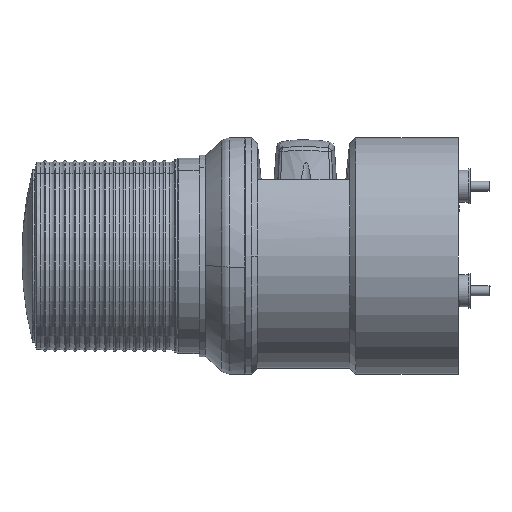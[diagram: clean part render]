
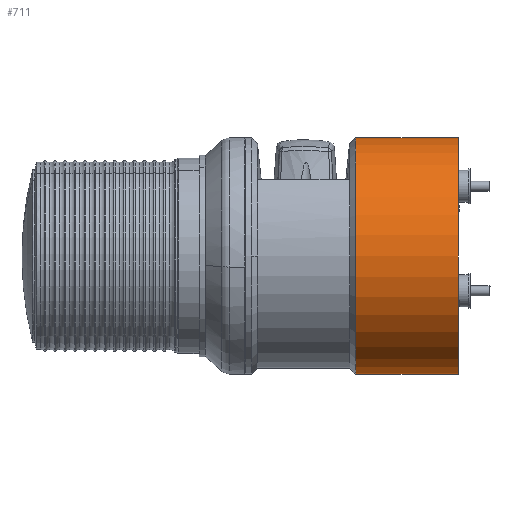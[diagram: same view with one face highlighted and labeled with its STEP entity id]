
A CAD part, left-side view. The second image highlights one B-rep face of the part: STEP entity #711.
In plain terms, the highlighted cylindrical face has radius 59.5 mm (diameter 119 mm), a partial arc.
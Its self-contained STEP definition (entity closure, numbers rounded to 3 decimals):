
#552 = VERTEX_POINT ( 'NONE', #8645 ) ;
#711 = ADVANCED_FACE ( 'NONE', ( #7985 ), #17472, .T. ) ;
#912 = AXIS2_PLACEMENT_3D ( 'NONE', #8620, #4335, #9899 ) ;
#1353 = EDGE_LOOP ( 'NONE', ( #16219, #14807, #9179, #2545 ) ) ;
#2368 = AXIS2_PLACEMENT_3D ( 'NONE', #7816, #16025, #16201 ) ;
#2545 = ORIENTED_EDGE ( 'NONE', *, *, #9783, .T. ) ;
#3145 = DIRECTION ( 'NONE',  ( 0., 1., 0. ) ) ;
#3330 = LINE ( 'NONE', #15909, #17002 ) ;
#3945 = DIRECTION ( 'NONE',  ( 0., 0., 1. ) ) ;
#4335 = DIRECTION ( 'NONE',  ( 0., 1., 0. ) ) ;
#4375 = CARTESIAN_POINT ( 'NONE',  ( -1.343, 53.283, 178.886 ) ) ;
#4472 = DIRECTION ( 'NONE',  ( 0., 1., 0. ) ) ;
#7816 = CARTESIAN_POINT ( 'NONE',  ( -1.343, 53.283, 119.386 ) ) ;
#7985 = FACE_OUTER_BOUND ( 'NONE', #1353, .T. ) ;
#8620 = CARTESIAN_POINT ( 'NONE',  ( -1.343, -5.217, 119.386 ) ) ;
#8645 = CARTESIAN_POINT ( 'NONE',  ( -1.343, -5.217, 59.886 ) ) ;
#8686 = VERTEX_POINT ( 'NONE', #14610 ) ;
#9179 = ORIENTED_EDGE ( 'NONE', *, *, #12927, .T. ) ;
#9333 = CIRCLE ( 'NONE', #11965, 59.5 ) ;
#9762 = EDGE_CURVE ( 'NONE', #552, #8686, #14873, .T. ) ;
#9783 = EDGE_CURVE ( 'NONE', #12223, #10938, #9333, .T. ) ;
#9899 = DIRECTION ( 'NONE',  ( 0., 0., 1. ) ) ;
#10938 = VERTEX_POINT ( 'NONE', #12063 ) ;
#11965 = AXIS2_PLACEMENT_3D ( 'NONE', #16439, #12334, #3945 ) ;
#12063 = CARTESIAN_POINT ( 'NONE',  ( -1.343, 46.125, 59.886 ) ) ;
#12097 = EDGE_CURVE ( 'NONE', #552, #10938, #3330, .T. ) ;
#12223 = VERTEX_POINT ( 'NONE', #16997 ) ;
#12334 = DIRECTION ( 'NONE',  ( 0., -1., 0. ) ) ;
#12927 = EDGE_CURVE ( 'NONE', #8686, #12223, #14408, .T. ) ;
#14408 = LINE ( 'NONE', #4375, #17609 ) ;
#14610 = CARTESIAN_POINT ( 'NONE',  ( -1.343, -5.217, 178.886 ) ) ;
#14807 = ORIENTED_EDGE ( 'NONE', *, *, #9762, .T. ) ;
#14873 = CIRCLE ( 'NONE', #912, 59.5 ) ;
#15909 = CARTESIAN_POINT ( 'NONE',  ( -1.343, 53.283, 59.886 ) ) ;
#16025 = DIRECTION ( 'NONE',  ( 0., 1., 0. ) ) ;
#16201 = DIRECTION ( 'NONE',  ( 0., 0., 1. ) ) ;
#16219 = ORIENTED_EDGE ( 'NONE', *, *, #12097, .F. ) ;
#16439 = CARTESIAN_POINT ( 'NONE',  ( -1.343, 46.125, 119.386 ) ) ;
#16997 = CARTESIAN_POINT ( 'NONE',  ( -1.343, 46.125, 178.886 ) ) ;
#17002 = VECTOR ( 'NONE', #3145, 1000. ) ;
#17472 = CYLINDRICAL_SURFACE ( 'NONE', #2368, 59.5 ) ;
#17609 = VECTOR ( 'NONE', #4472, 1000. ) ;
